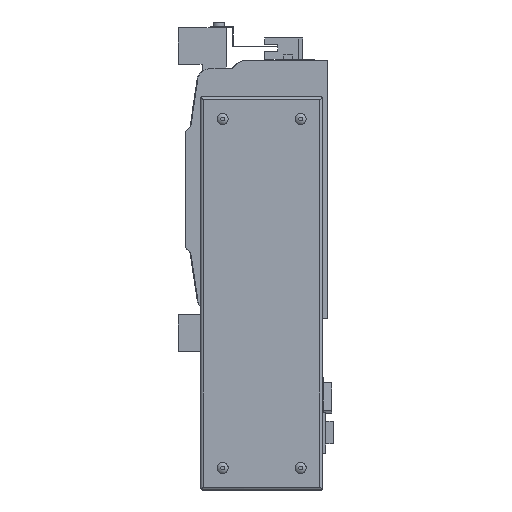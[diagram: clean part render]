
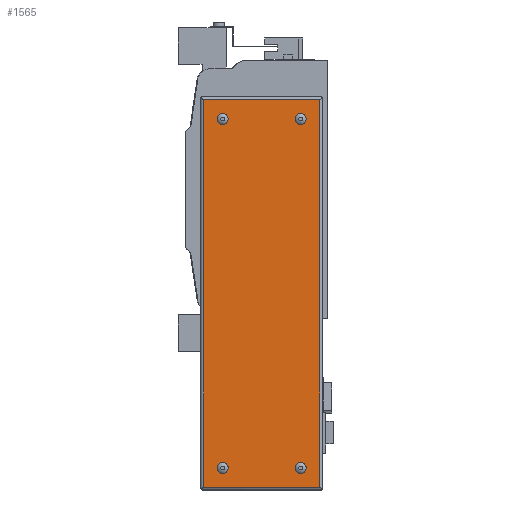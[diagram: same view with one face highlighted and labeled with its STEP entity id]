
A CAD part, left-side view. The second image highlights one B-rep face of the part: STEP entity #1565.
In plain terms, the highlighted planar face has unit normal (-1, 0, 0).
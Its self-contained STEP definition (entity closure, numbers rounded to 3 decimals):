
#1565 = ADVANCED_FACE( '', ( #3235, #3236, #3237, #3238, #3239 ), #3240, .F. );
#3235 = FACE_BOUND( '', #5018, .T. );
#3236 = FACE_BOUND( '', #5019, .T. );
#3237 = FACE_BOUND( '', #5020, .T. );
#3238 = FACE_BOUND( '', #5021, .T. );
#3239 = FACE_OUTER_BOUND( '', #5022, .T. );
#3240 = PLANE( '', #5023 );
#5018 = EDGE_LOOP( '', ( #9267 ) );
#5019 = EDGE_LOOP( '', ( #9268 ) );
#5020 = EDGE_LOOP( '', ( #9269 ) );
#5021 = EDGE_LOOP( '', ( #9270 ) );
#5022 = EDGE_LOOP( '', ( #9271, #9272, #9273, #9274 ) );
#5023 = AXIS2_PLACEMENT_3D( '', #9275, #9276, #9277 );
#9267 = ORIENTED_EDGE( '', *, *, #11989, .F. );
#9268 = ORIENTED_EDGE( '', *, *, #11769, .F. );
#9269 = ORIENTED_EDGE( '', *, *, #10512, .F. );
#9270 = ORIENTED_EDGE( '', *, *, #12045, .F. );
#9271 = ORIENTED_EDGE( '', *, *, #12046, .F. );
#9272 = ORIENTED_EDGE( '', *, *, #11226, .F. );
#9273 = ORIENTED_EDGE( '', *, *, #11949, .T. );
#9274 = ORIENTED_EDGE( '', *, *, #11910, .T. );
#9275 = CARTESIAN_POINT( '', ( -66., 0., 0. ) );
#9276 = DIRECTION( '', ( 1., 0., 0. ) );
#9277 = DIRECTION( '', ( 0., 0., -1. ) );
#10512 = EDGE_CURVE( '', #12565, #12565, #12566, .F. );
#11226 = EDGE_CURVE( '', #13752, #13754, #13755, .T. );
#11769 = EDGE_CURVE( '', #14521, #14521, #14522, .F. );
#11910 = EDGE_CURVE( '', #14701, #14699, #14702, .T. );
#11949 = EDGE_CURVE( '', #13752, #14701, #14749, .T. );
#11989 = EDGE_CURVE( '', #14796, #14796, #14797, .F. );
#12045 = EDGE_CURVE( '', #14862, #14862, #14863, .F. );
#12046 = EDGE_CURVE( '', #13754, #14699, #14864, .T. );
#12565 = VERTEX_POINT( '', #15528 );
#12566 = CIRCLE( '', #15529, 3.7 );
#13752 = VERTEX_POINT( '', #17201 );
#13754 = VERTEX_POINT( '', #17203 );
#13755 = LINE( '', #17204, #17205 );
#14521 = VERTEX_POINT( '', #18284 );
#14522 = CIRCLE( '', #18285, 3.7 );
#14699 = VERTEX_POINT( '', #18516 );
#14701 = VERTEX_POINT( '', #18518 );
#14702 = LINE( '', #18519, #18520 );
#14749 = LINE( '', #18581, #18582 );
#14796 = VERTEX_POINT( '', #18650 );
#14797 = CIRCLE( '', #18651, 3.7 );
#14862 = VERTEX_POINT( '', #18745 );
#14863 = CIRCLE( '', #18746, 3.7 );
#14864 = LINE( '', #18747, #18748 );
#15528 = CARTESIAN_POINT( '', ( -66., 18.5, -192.7 ) );
#15529 = AXIS2_PLACEMENT_3D( '', #19178, #19179, #19180 );
#17201 = CARTESIAN_POINT( '', ( -66., 84.5, 61. ) );
#17203 = CARTESIAN_POINT( '', ( -66., 5.5, 61. ) );
#17204 = CARTESIAN_POINT( '', ( -66., 267., 61. ) );
#17205 = VECTOR( '', #19970, 1000. );
#18284 = CARTESIAN_POINT( '', ( -66., 18.5, 44.3 ) );
#18285 = AXIS2_PLACEMENT_3D( '', #20512, #20513, #20514 );
#18516 = CARTESIAN_POINT( '', ( -66., 5.5, -202. ) );
#18518 = CARTESIAN_POINT( '', ( -66., 84.5, -202. ) );
#18519 = CARTESIAN_POINT( '', ( -66., 267., -202. ) );
#18520 = VECTOR( '', #20662, 1000. );
#18581 = CARTESIAN_POINT( '', ( -66., 84.5, 267. ) );
#18582 = VECTOR( '', #20701, 1000. );
#18650 = CARTESIAN_POINT( '', ( -66., 71.5, -192.7 ) );
#18651 = AXIS2_PLACEMENT_3D( '', #20729, #20730, #20731 );
#18745 = CARTESIAN_POINT( '', ( -66., 71.5, 44.3 ) );
#18746 = AXIS2_PLACEMENT_3D( '', #20782, #20783, #20784 );
#18747 = CARTESIAN_POINT( '', ( -66., 5.5, 267. ) );
#18748 = VECTOR( '', #20785, 1000. );
#19178 = CARTESIAN_POINT( '', ( -66., 18.5, -189. ) );
#19179 = DIRECTION( '', ( 1., 0., 0. ) );
#19180 = DIRECTION( '', ( 0., 0., -1. ) );
#19970 = DIRECTION( '', ( 0., -1., 0. ) );
#20512 = CARTESIAN_POINT( '', ( -66., 18.5, 48. ) );
#20513 = DIRECTION( '', ( 1., 0., 0. ) );
#20514 = DIRECTION( '', ( 0., 0., -1. ) );
#20662 = DIRECTION( '', ( 0., -1., 0. ) );
#20701 = DIRECTION( '', ( 0., 0., -1. ) );
#20729 = CARTESIAN_POINT( '', ( -66., 71.5, -189. ) );
#20730 = DIRECTION( '', ( 1., 0., 0. ) );
#20731 = DIRECTION( '', ( 0., 0., -1. ) );
#20782 = CARTESIAN_POINT( '', ( -66., 71.5, 48. ) );
#20783 = DIRECTION( '', ( 1., 0., 0. ) );
#20784 = DIRECTION( '', ( 0., 0., -1. ) );
#20785 = DIRECTION( '', ( 0., 0., -1. ) );
